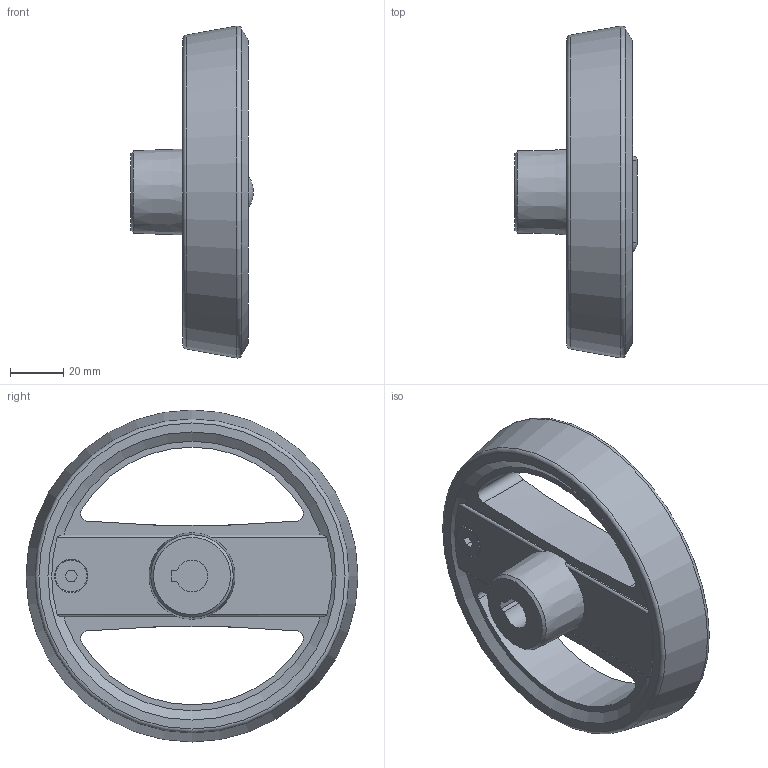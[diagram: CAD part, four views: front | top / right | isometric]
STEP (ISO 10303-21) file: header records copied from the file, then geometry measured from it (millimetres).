
FILE_DESCRIPTION( ( 'STEP AP203' ), '1' );
FILE_NAME( 'C:/Temp/Ganter_Step_05_03_2020/data/1_3/gn_924_3/gn_924_3_b/Handwheel with retractable handle GN 924.3-125-B12-R-SR (unactivated).stp', '2020-03-05T10:40:44', ( 'License CC BY-ND 4.0' ), ( 'CADENAS' ), ' ', 'PARTsolutions', ' ' );
FILE_SCHEMA( ( 'CONFIG_CONTROL_DESIGN' ) );
Length unit declared in the file: millimetre
Products named in the file (3): Handwheel with retractable handle GN 924.3-125-B12-R-SR (unactivated); _Umleggriff-Handrad GN 924.3-125-B12-R-SR-1; _Umleggriff-Handrad GN 924.3-125-B12-R-SR-2
Assembly tree (2 placements, depth 2):
  Handwheel with retractable handle GN 924.3-125-B12-R-SR (unactivated)
    _Umleggriff-Handrad GN 924.3-125-B12-R-SR-1
    _Umleggriff-Handrad GN 924.3-125-B12-R-SR-2
Bounding box: 46.2 x 125 x 125 mm (x, y, z)
Volume: 165973.2 mm3; surface area: 51024.9 mm2
Topology: 2 solids, 2 shells, 103 faces, 261 edges, 167 vertices
Faces by surface type: plane 48, cylinder 35, cone 11, torus 7, sphere 2
Full cylindrical faces by diameter (mm): 4 x4, 10 x1, 12 x1, 18.5 x1, 22 x1, 25 x1, 26.6 x1
Entity records: 3393 total; most frequent: CARTESIAN_POINT 939, DIRECTION 484, ORIENTED_EDGE 448, EDGE_CURVE 224, AXIS2_PLACEMENT_3D 194, VERTEX_POINT 162, EDGE_LOOP 151, FACE_OUTER_BOUND 120
